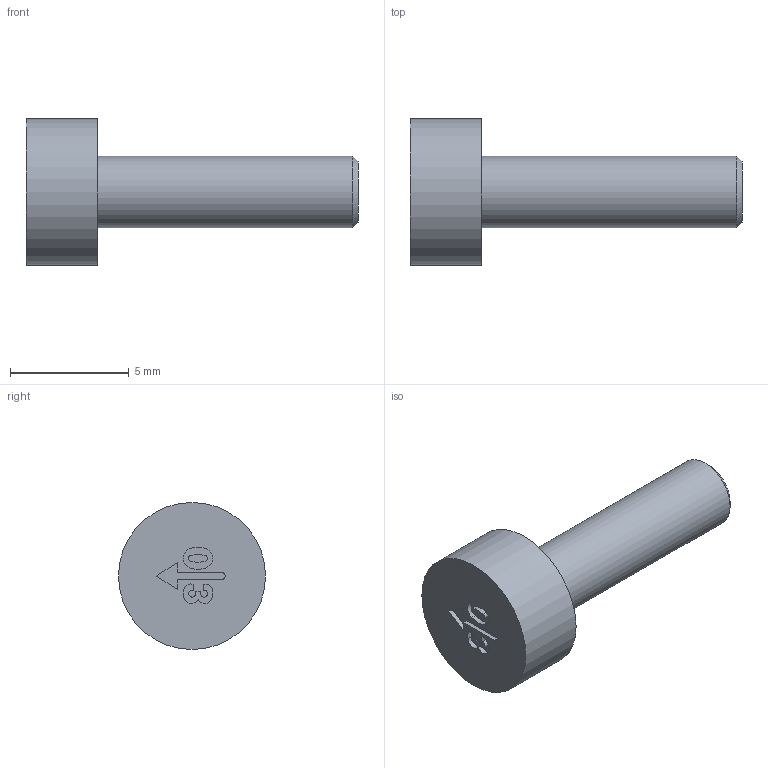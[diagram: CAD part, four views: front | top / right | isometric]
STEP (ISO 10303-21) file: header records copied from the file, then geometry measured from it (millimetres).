
FILE_DESCRIPTION( ( 'STEP AP203' ), ' ' );
FILE_NAME( 'p:/temp/worker_3/4112_3348/app_90_12017012509224327714744260eae72_000000_00_00_000000/format_0/YON 12.stp', '2017-01-25T08:22:43', ( '' ), ( '' ), ' ', 'PARTsolutions', ' ' );
FILE_SCHEMA( ( 'CONFIG_CONTROL_DESIGN' ) );
Length unit declared in the file: millimetre
Products named in the file (1): _YON 121
Bounding box: 14 x 6.2 x 6.2 mm (x, y, z)
Volume: 167.6 mm3; surface area: 224.9 mm2
Topology: 1 solids, 1 shells, 42 faces, 104 edges, 69 vertices
Faces by surface type: plane 24, cylinder 17, cone 1
Full cylindrical faces by diameter (mm): 3 x1, 6.2 x1
Entity records: 1284 total; most frequent: DIRECTION 222, CARTESIAN_POINT 213, ORIENTED_EDGE 202, EDGE_CURVE 101, AXIS2_PLACEMENT_3D 78, VERTEX_POINT 69, LINE 66, VECTOR 66
